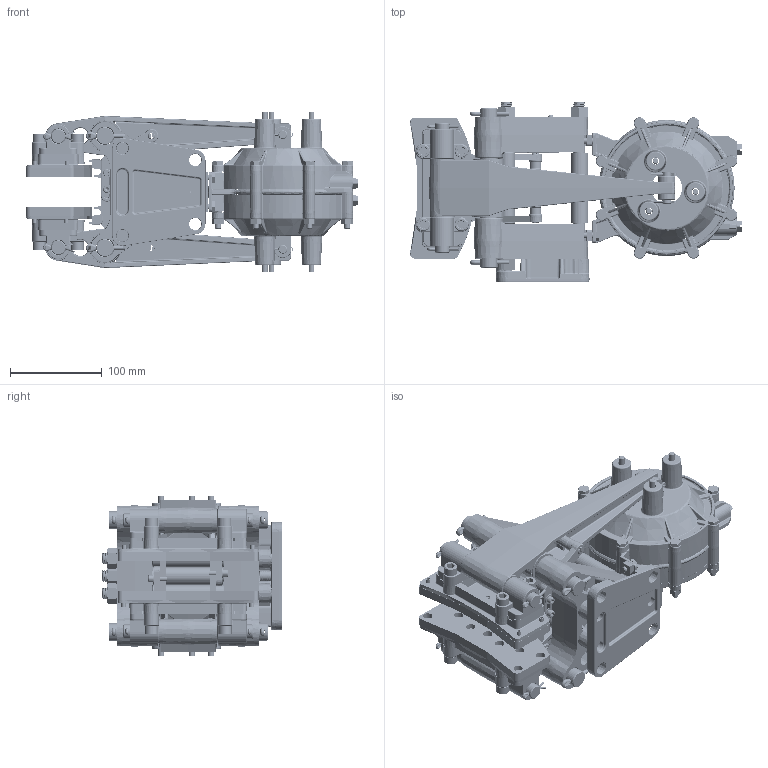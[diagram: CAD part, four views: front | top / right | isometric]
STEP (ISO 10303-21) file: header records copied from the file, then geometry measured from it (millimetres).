
FILE_DESCRIPTION (( 'STEP AP203' ), '1' );
FILE_NAME ('5020-A.STEP', '2026-02-19T00:32:00', ( '' ), ( '' ), 'SwSTEP 2.0', 'SolidWorks 2023', '' );
FILE_SCHEMA (( 'CONFIG_CONTROL_DESIGN' ));
Length unit declared in the file: inch
Products named in the file (1): 5020-A
Bounding box: 361.46 x 195.9 x 175.26 mm (x, y, z)
Surface area: 606419 mm2 (no closed solid volume)
Topology: 0 solids, 191 shells, 4006 faces, 12896 edges, 8696 vertices
Faces by surface type: plane 1148, cylinder 1040, cone 702, bspline 556, torus 499, sphere 61
Entity records: 183140 total; most frequent: CARTESIAN_POINT 77913, DIRECTION 21308, ORIENTED_EDGE 20634, EDGE_CURVE 12868, VERTEX_POINT 8696, AXIS2_PLACEMENT_3D 8173, VECTOR 4962, LINE 4962
